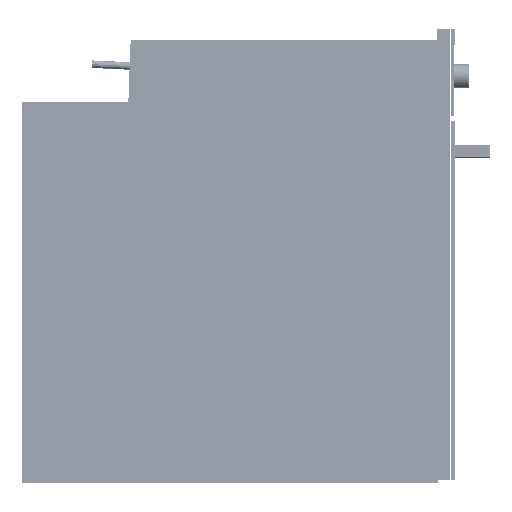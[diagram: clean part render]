
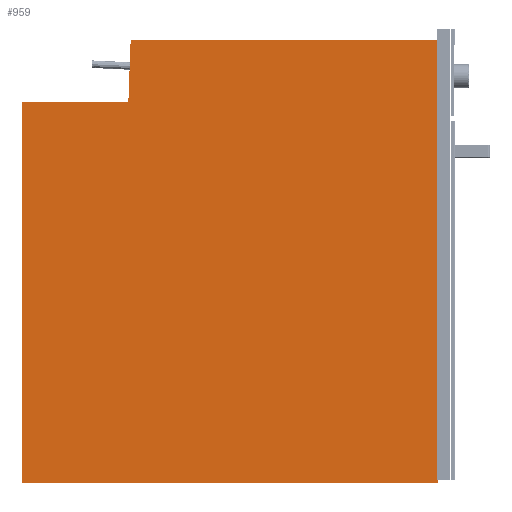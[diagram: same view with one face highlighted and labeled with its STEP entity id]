
A CAD part, front view. The second image highlights one B-rep face of the part: STEP entity #959.
In plain terms, the highlighted free-form (B-spline) face has degree [1, 1] with [2, 2] control points.
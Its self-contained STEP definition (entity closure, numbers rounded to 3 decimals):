
#959=ADVANCED_FACE('',(#1213),#3250,.T.);
#1213=FACE_OUTER_BOUND('',#1469,.T.);
#1469=EDGE_LOOP('',(#2094,#2095,#2096,#2097,#2098,#2099));
#2094=ORIENTED_EDGE('',*,*,#2691,.T.);
#2095=ORIENTED_EDGE('',*,*,#2694,.T.);
#2096=ORIENTED_EDGE('',*,*,#2705,.T.);
#2097=ORIENTED_EDGE('',*,*,#2708,.T.);
#2098=ORIENTED_EDGE('',*,*,#2710,.T.);
#2099=ORIENTED_EDGE('',*,*,#2687,.T.);
#2687=EDGE_CURVE('',#3034,#3033,#3401,.T.);
#2691=EDGE_CURVE('',#3033,#3036,#3405,.T.);
#2694=EDGE_CURVE('',#3036,#3038,#3408,.T.);
#2705=EDGE_CURVE('',#3038,#3048,#3419,.T.);
#2708=EDGE_CURVE('',#3048,#3050,#3422,.T.);
#2710=EDGE_CURVE('',#3050,#3034,#3424,.T.);
#3033=VERTEX_POINT('',#87662);
#3034=VERTEX_POINT('',#87663);
#3036=VERTEX_POINT('',#87665);
#3038=VERTEX_POINT('',#87667);
#3048=VERTEX_POINT('',#87677);
#3050=VERTEX_POINT('',#87679);
#3250=B_SPLINE_SURFACE_WITH_KNOTS('',1,1,((#87616,#87617),(#87618,#87619)),
.UNSPECIFIED.,.F.,.F.,.F.,(2,2),(2,2),(0.285,0.632),
(0.311,0.637),.UNSPECIFIED.);
#3401=B_SPLINE_CURVE_WITH_KNOTS('',1,(#87496,#87497),.UNSPECIFIED.,.F.,.F.,
(2,2),(0.,1.),.UNSPECIFIED.);
#3405=B_SPLINE_CURVE_WITH_KNOTS('',1,(#87504,#87505),.UNSPECIFIED.,.F.,.F.,
(2,2),(0.,1.),.UNSPECIFIED.);
#3408=B_SPLINE_CURVE_WITH_KNOTS('',1,(#87510,#87511),.UNSPECIFIED.,.F.,.F.,
(2,2),(0.,1.),.UNSPECIFIED.);
#3419=B_SPLINE_CURVE_WITH_KNOTS('',1,(#87540,#87541),.UNSPECIFIED.,.F.,.F.,
(2,2),(0.,1.),.UNSPECIFIED.);
#3422=B_SPLINE_CURVE_WITH_KNOTS('',1,(#87546,#87547),.UNSPECIFIED.,.F.,.F.,
(2,2),(0.,1.),.UNSPECIFIED.);
#3424=B_SPLINE_CURVE_WITH_KNOTS('',1,(#87550,#87551),.UNSPECIFIED.,.F.,.F.,
(2,2),(0.,1.),.UNSPECIFIED.);
#87496=CARTESIAN_POINT('',(-545.977,-275.938,499.849));
#87497=CARTESIAN_POINT('',(-545.977,-275.938,-0.011));
#87504=CARTESIAN_POINT('',(-545.977,-275.938,-0.011));
#87505=CARTESIAN_POINT('',(0.012,-275.938,-0.011));
#87510=CARTESIAN_POINT('',(0.012,-275.938,-0.011));
#87511=CARTESIAN_POINT('',(0.012,-275.938,582.164));
#87540=CARTESIAN_POINT('',(0.012,-275.938,582.164));
#87541=CARTESIAN_POINT('',(-403.197,-275.938,582.164));
#87546=CARTESIAN_POINT('',(-403.197,-275.938,582.164));
#87547=CARTESIAN_POINT('',(-406.269,-275.938,499.853));
#87550=CARTESIAN_POINT('',(-406.269,-275.938,499.853));
#87551=CARTESIAN_POINT('',(-545.977,-275.938,499.849));
#87616=CARTESIAN_POINT('',(0.012,-275.938,-0.011));
#87617=CARTESIAN_POINT('',(-545.977,-275.938,-0.011));
#87618=CARTESIAN_POINT('',(0.012,-275.938,582.164));
#87619=CARTESIAN_POINT('',(-545.977,-275.938,582.164));
#87662=CARTESIAN_POINT('',(-545.977,-275.938,-0.011));
#87663=CARTESIAN_POINT('',(-545.977,-275.938,499.849));
#87665=CARTESIAN_POINT('',(0.012,-275.938,-0.011));
#87667=CARTESIAN_POINT('',(0.012,-275.938,582.164));
#87677=CARTESIAN_POINT('',(-403.197,-275.938,582.164));
#87679=CARTESIAN_POINT('',(-406.269,-275.938,499.853));
